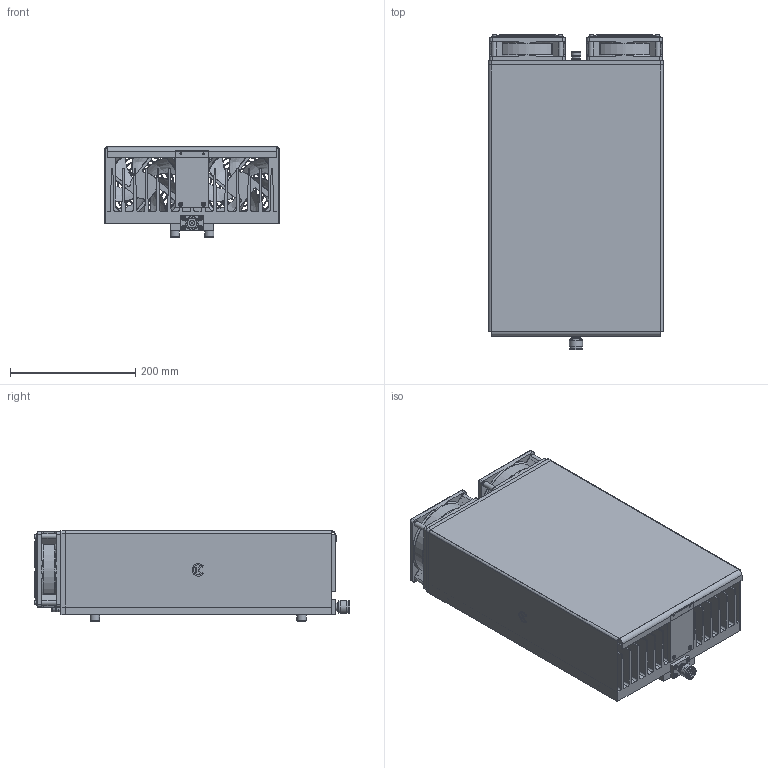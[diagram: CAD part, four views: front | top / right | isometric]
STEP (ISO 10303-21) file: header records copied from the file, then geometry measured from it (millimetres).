
FILE_DESCRIPTION(('STEP AP203'), '1');
FILE_NAME('栖闉罻 1500 鎗', '', ('UNSPECIFIED'), ('UNSPECIFIED'), 'C3D Converter', 'C3D Toolkit', '');
FILE_SCHEMA(('CONFIG_CONTROL_DESIGN'));
Length unit declared in the file: millimetre
Products named in the file (21): -01; Вентилятор 120x120x25; Вентилятор_винт 120х120х25; Вентилятор_основа 120х120х25
Assembly tree (57 placements, depth 3):
  (unnamed)
    (unnamed)
    (unnamed)
    (unnamed)
    (unnamed)
    (unnamed)
    (unnamed)
    -01
    (unnamed)
    Вентилятор 120x120x25  x2
      Вентилятор_винт 120х120х25
      Вентилятор_основа 120х120х25
    (unnamed)  x10
    -01  x6
    (unnamed)
    -01
    (unnamed)  x21
    (unnamed)  x2
    -01  x2
    -01
    -01
Bounding box: 278 x 503.15 x 144 mm (x, y, z)
Volume: 4932615.7 mm3; surface area: 1904028.6 mm2
Topology: 57 solids, 57 shells, 3043 faces, 8153 edges, 4968 vertices
Faces by surface type: plane 1181, bspline 816, cylinder 713, torus 193, cone 140
Full cylindrical faces by diameter (mm): 1.65 x1, 1.66 x1, 2.459 x25, 2.5 x3, 3 x22, 3.04 x2, 3.2 x2, 3.242 x8, 3.5 x8, 4.134 x16, 5 x16, 5.5 x57, 6 x1, 7 x12, 8 x1, 8.04 x1, 8.06 x1, 8.5 x20, 9 x1, 10 x17, 11.6 x2, 12.7 x1, 14 x2, 14.94 x1, 15 x4, 15.75 x1, 15.87 x1, 16 x4, 16.5 x1, 17.46 x1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
Entity records: 83677 total; most frequent: CARTESIAN_POINT 25155, ORIENTED_EDGE 9142, DIRECTION 8128, EDGE_CURVE 4571, AXIS2_PLACEMENT_3D 3108, VERTEX_POINT 3037, EDGE_LOOP 2402, FACE_BOUND 2105
